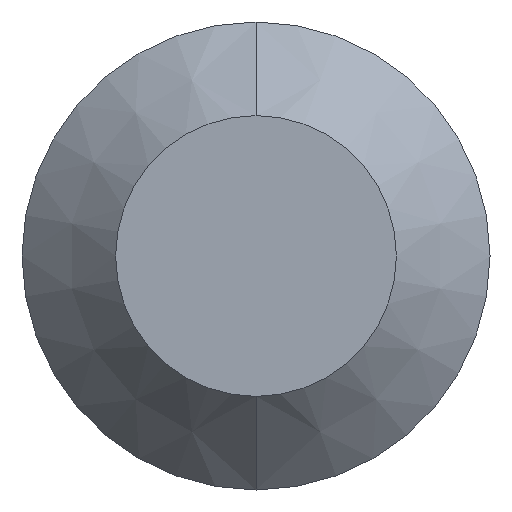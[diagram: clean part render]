
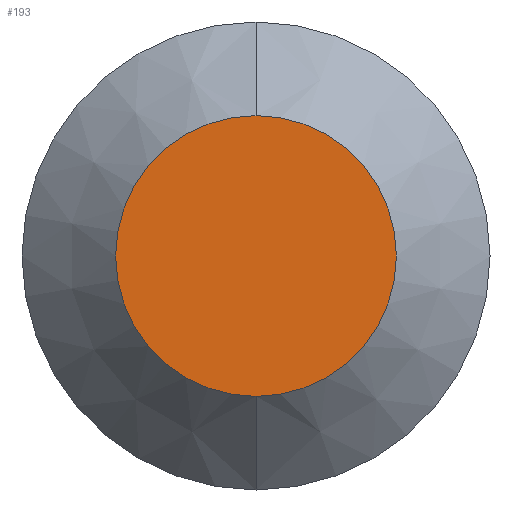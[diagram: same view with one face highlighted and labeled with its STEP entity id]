
A CAD part, front view. The second image highlights one B-rep face of the part: STEP entity #193.
In plain terms, the highlighted planar face has unit normal (0, -1, 0).
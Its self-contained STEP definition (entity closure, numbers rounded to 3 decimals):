
#1 = CARTESIAN_POINT ( 'NONE',  ( 0., 0., 0. ) ) ;
#4 = PLANE ( 'NONE',  #159 ) ;
#8 = DIRECTION ( 'NONE',  ( 0., 1., 0. ) ) ;
#35 = DIRECTION ( 'NONE',  ( 0., 0., 1. ) ) ;
#36 = CARTESIAN_POINT ( 'NONE',  ( 0., 0., 0. ) ) ;
#41 = EDGE_LOOP ( 'NONE', ( #121, #73 ) ) ;
#53 = DIRECTION ( 'NONE',  ( 0., 0., 1. ) ) ;
#60 = AXIS2_PLACEMENT_3D ( 'NONE', #36, #229, #53 ) ;
#73 = ORIENTED_EDGE ( 'NONE', *, *, #95, .T. ) ;
#85 = FACE_OUTER_BOUND ( 'NONE', #41, .T. ) ;
#95 = EDGE_CURVE ( 'NONE', #177, #222, #97, .T. ) ;
#97 = CIRCLE ( 'NONE', #144, 0.3 ) ;
#121 = ORIENTED_EDGE ( 'NONE', *, *, #130, .T. ) ;
#130 = EDGE_CURVE ( 'NONE', #222, #177, #293, .T. ) ;
#144 = AXIS2_PLACEMENT_3D ( 'NONE', #1, #220, #152 ) ;
#152 = DIRECTION ( 'NONE',  ( 0., 0., 1. ) ) ;
#159 = AXIS2_PLACEMENT_3D ( 'NONE', #183, #8, #35 ) ;
#177 = VERTEX_POINT ( 'NONE', #185 ) ;
#183 = CARTESIAN_POINT ( 'NONE',  ( 0., 0., 0. ) ) ;
#185 = CARTESIAN_POINT ( 'NONE',  ( 0., 0., -0.3 ) ) ;
#193 = ADVANCED_FACE ( 'NONE', ( #85 ), #4, .F. ) ;
#220 = DIRECTION ( 'NONE',  ( 0., -1., 0. ) ) ;
#222 = VERTEX_POINT ( 'NONE', #252 ) ;
#229 = DIRECTION ( 'NONE',  ( 0., -1., 0. ) ) ;
#252 = CARTESIAN_POINT ( 'NONE',  ( 0., 0., 0.3 ) ) ;
#293 = CIRCLE ( 'NONE', #60, 0.3 ) ;
